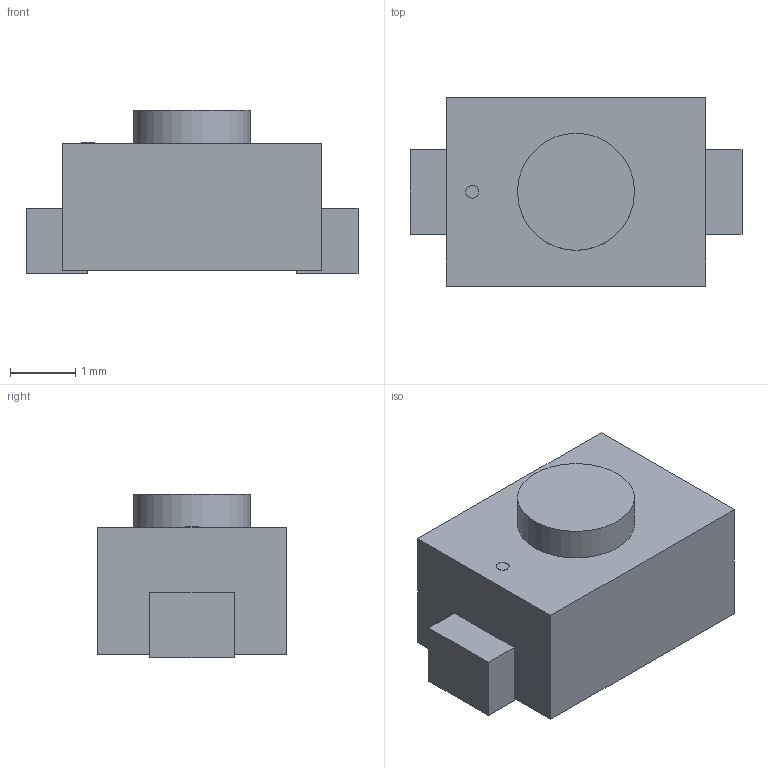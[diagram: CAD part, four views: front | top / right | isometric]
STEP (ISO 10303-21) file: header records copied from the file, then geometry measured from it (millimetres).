
FILE_DESCRIPTION(('FreeCAD Model'),'2;1');
FILE_NAME('Open CASCADE Shape Model','2026-02-11T09:39:49',(''),(''), 'Open CASCADE STEP processor 7.8','FreeCAD','Unknown');
FILE_SCHEMA(('AUTOMOTIVE_DESIGN { 1 0 10303 214 1 1 1 1 }'));
Length unit declared in the file: millimetre
Products named in the file (7): Unnamed; Pad; part004; part; part001; part002; part003
Assembly tree (6 placements, depth 3):
  Unnamed
    Pad
    part004
      part
      part001
      part002
      part003
Bounding box: 5.11 x 2.9 x 2.51 mm (x, y, z)
Volume: 25.4 mm3; surface area: 70.4 mm2
Topology: 5 solids, 5 shells, 28 faces, 54 edges, 36 vertices
Faces by surface type: plane 26, cylinder 2
Full cylindrical faces by diameter (mm): 0.199 x1, 1.8 x1
Entity records: 866 total; most frequent: DIRECTION 127, CARTESIAN_POINT 126, ORIENTED_EDGE 108, EDGE_CURVE 54, LINE 49, VECTOR 49, AXIS2_PLACEMENT_3D 39, VERTEX_POINT 36
